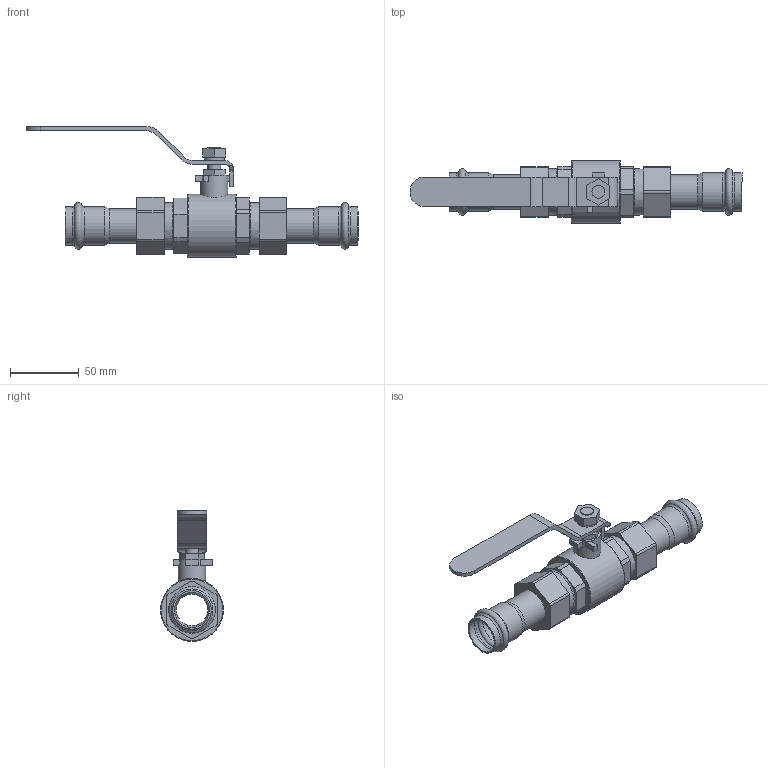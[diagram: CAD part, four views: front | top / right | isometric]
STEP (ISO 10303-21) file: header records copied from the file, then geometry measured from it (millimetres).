
FILE_DESCRIPTION(/* description */ (''),/* implementation_level */ '2;1');
FILE_NAME(/* name */ '51352020001.stp',/* time_stamp */ '2022-06-28T15:31:37+08:00',/* author */ (''),/* organization */ (''),/* preprocessor_version */ 'ST-DEVELOPER v11',/* originating_system */ 'SIEMENS PLM Software NX 7.5',/* authorisation */ '');
FILE_SCHEMA (('CONFIG_CONTROL_DESIGN'));
Length unit declared in the file: millimetre
Products named in the file (1): AdmiB4625zqm
Bounding box: 241.55 x 45.8 x 95.2 mm (x, y, z)
Volume: 121036.3 mm3; surface area: 64566.4 mm2
Topology: 5 solids, 5 shells, 196 faces, 458 edges, 293 vertices
Faces by surface type: plane 111, cylinder 51, torus 28, cone 6
Full cylindrical faces by diameter (mm): 9.3 x2, 14.8 x1, 19.9 x1, 23 x2, 25.1 x1, 25.4 x2, 25.6 x4, 26.15 x2, 26.3 x2, 27.35 x2, 28 x4, 30 x2, 30.3 x2, 45.8 x1
Entity records: 5346 total; most frequent: CARTESIAN_POINT 958, DIRECTION 910, ORIENTED_EDGE 774, EDGE_CURVE 387, AXIS2_PLACEMENT_3D 335, EDGE_LOOP 290, VERTEX_POINT 285, LINE 240
